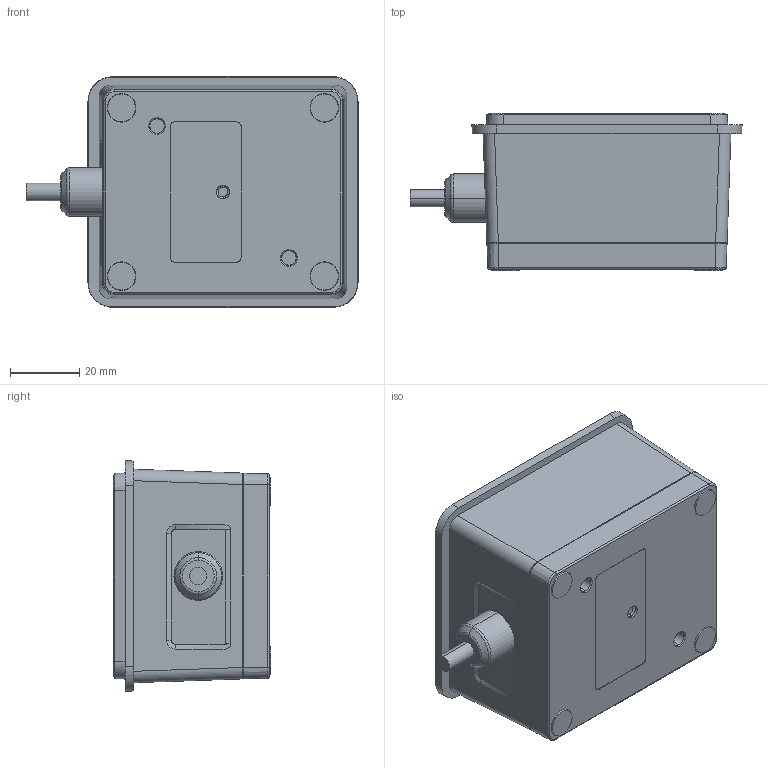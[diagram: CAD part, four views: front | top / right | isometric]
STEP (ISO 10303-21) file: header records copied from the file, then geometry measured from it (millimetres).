
FILE_DESCRIPTION (( 'STEP AP203' ), '1' );
FILE_NAME ('7161WP-3D-190603.STEP', '2019-06-03T11:31:02', ( '' ), ( '' ), 'SwSTEP 2.0', 'SolidWorks 2015', '' );
FILE_SCHEMA (( 'CONFIG_CONTROL_DESIGN' ));
Length unit declared in the file: millimetre
Products named in the file (1): 7161WP-3D-190603
Bounding box: 95.65 x 45.4 x 66.4 mm (x, y, z)
Surface area: 22735.3 mm2 (no closed solid volume)
Topology: 0 solids, 9 shells, 141 faces, 370 edges, 246 vertices
Faces by surface type: plane 51, cylinder 38, bspline 26, cone 22, torus 4
Entity records: 6526 total; most frequent: CARTESIAN_POINT 3173, ORIENTED_EDGE 664, DIRECTION 621, EDGE_CURVE 370, VERTEX_POINT 246, AXIS2_PLACEMENT_3D 216, LINE 189, VECTOR 189
